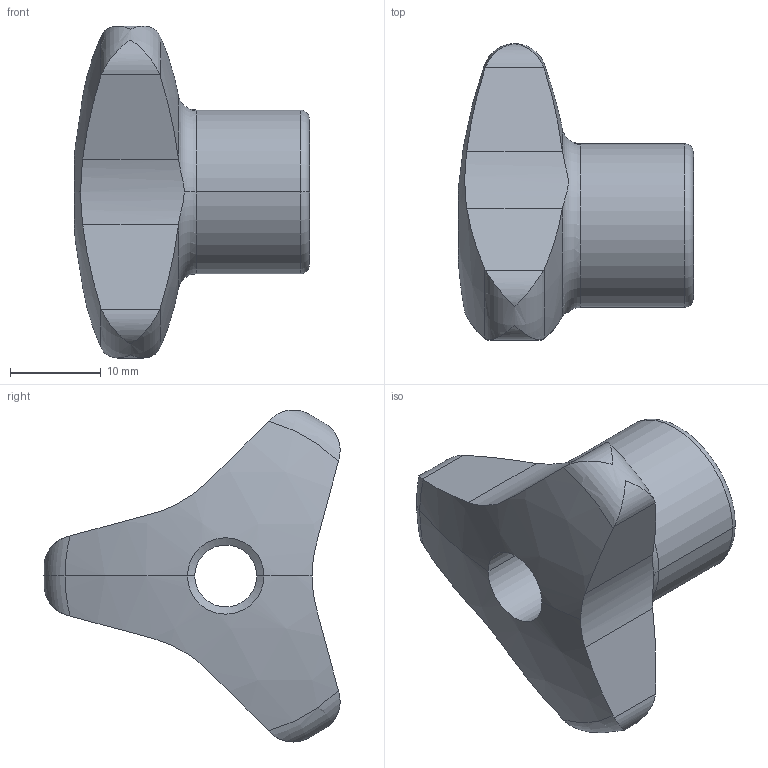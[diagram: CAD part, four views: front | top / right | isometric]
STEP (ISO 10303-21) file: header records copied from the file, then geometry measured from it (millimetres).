
FILE_DESCRIPTION (( 'STEP AP214' ), '1' );
FILE_NAME ('5345-40-M8-D.step', '2019-06-13T08:48:45', ( 'user' ), ( '' ), 'SwSTEP 2.0', 'SolidWorks 2019', '' );
FILE_SCHEMA (( 'AUTOMOTIVE_DESIGN' ));
Length unit declared in the file: millimetre
Products named in the file (1): 5345-40-M8-D
Bounding box: 25.83 x 32.56 x 36.49 mm (x, y, z)
Volume: 8673 mm3; surface area: 3467.4 mm2
Topology: 1 solids, 1 shells, 39 faces, 107 edges, 69 vertices
Faces by surface type: cylinder 16, torus 8, plane 7, sphere 6, cone 2
Entity records: 1533 total; most frequent: CARTESIAN_POINT 518, ORIENTED_EDGE 214, DIRECTION 193, EDGE_CURVE 107, AXIS2_PLACEMENT_3D 86, VERTEX_POINT 69, CIRCLE 46, B_SPLINE_CURVE_WITH_KNOTS 40
